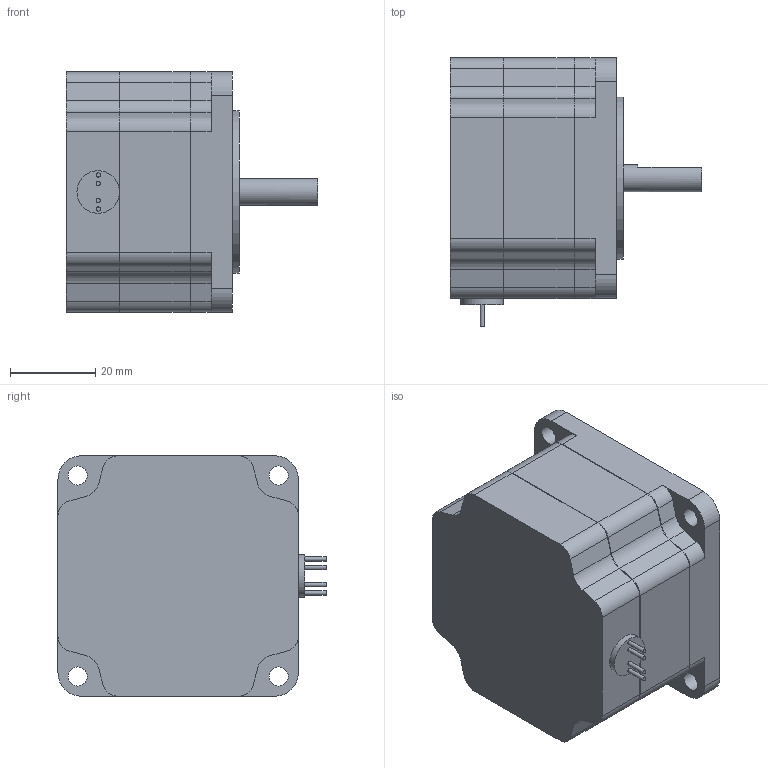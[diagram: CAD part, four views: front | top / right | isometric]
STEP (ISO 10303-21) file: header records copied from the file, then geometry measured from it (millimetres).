
FILE_DESCRIPTION(/* description */ ('STEP AP203'),/* implementation_level */ '2;1');
FILE_NAME(/* name */ 'PK264-01A',/* time_stamp */ '2026-06-12T10:16:05+02:00',/* author */ ('License CC BY-ND 4.0'),/* organization */ ('CADENAS'),/* preprocessor_version */ 'ST-DEVELOPER v20',/* originating_system */ 'PARTsolutions',/* authorisation */ ' ');
FILE_SCHEMA (('CONFIG_CONTROL_DESIGN'));
Length unit declared in the file: millimetre
Products named in the file (1): PK264-01A
Bounding box: 59 x 62.9 x 56.4 mm (x, y, z)
Volume: 112163.5 mm3; surface area: 15130.5 mm2
Topology: 1 solids, 1 shells, 154 faces, 429 edges, 287 vertices
Faces by surface type: plane 79, cylinder 75
Full cylindrical faces by diameter (mm): 1 x4, 4.5 x4, 6.35 x1, 10 x1, 38.1 x1
Entity records: 4916 total; most frequent: DIRECTION 873, CARTESIAN_POINT 848, ORIENTED_EDGE 824, EDGE_CURVE 412, AXIS2_PLACEMENT_3D 306, VERTEX_POINT 281, LINE 261, VECTOR 261
